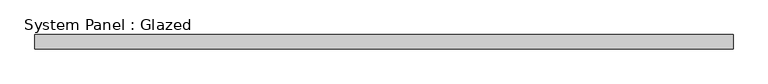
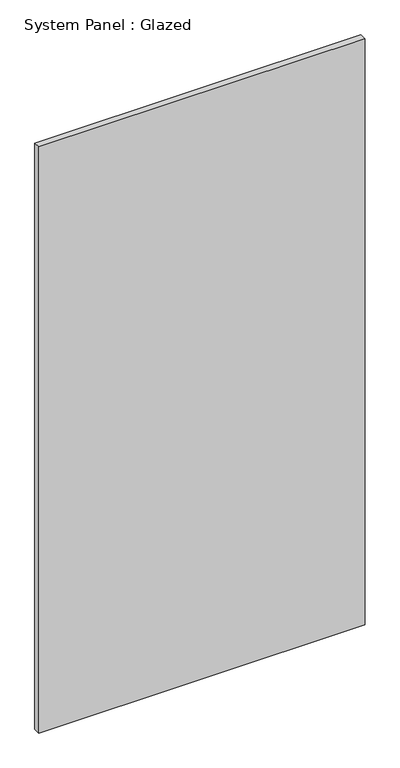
"""IFC4 building model written with IfcOpenShell, lengths in millimetres: plate geometry, System Panel : Glazed."""

from ifc_helpers import new_model, si_unit, origin, origin_with_axes, place, context, project, spatial, polyline, outline, extrude, source, transform, mapped, element, save


def system_panel_glazed_878f6614(model_context):
    return source(origin(), model_context, "Body", "SweptSolid", [
        extrude(outline(polyline([(625.475, 19.05), (-625.475, 19.05), (-625.475, 44.45), (625.475, 44.45), (625.475, 19.05)])), origin_with_axes(), (0.0, 0.0, 1.0), 2374.9),
    ])


if __name__ == "__main__":
    model = new_model("IFC4")
    model_context = context("Model", 3, world=origin())
    ifc_project = project(units=[si_unit("LENGTHUNIT", "METRE", prefix="MILLI")], contexts=[model_context])
    site = spatial("IfcSite", under=ifc_project)
    building = spatial("IfcBuilding", under=site)
    placement = place(None, origin())
    system_panel_glazed_shape = system_panel_glazed_878f6614(model_context)
    element("IfcPlate", 1, ObjectType="System Panel : Glazed", at=placement, inside=building, context=model_context, shape_type="MappedRepresentation", body=[
        mapped(system_panel_glazed_shape, transform((0.0, 0.0, 0.0), x_axis=(1.0, 0.0, 0.0), y_axis=(0.0, 1.0, 0.0), z_axis=(0.0, 0.0, 1.0))),
    ])
    save(model, "model.ifc")
